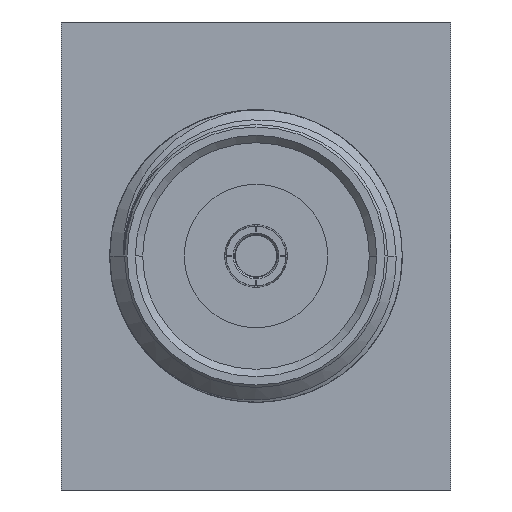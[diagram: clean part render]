
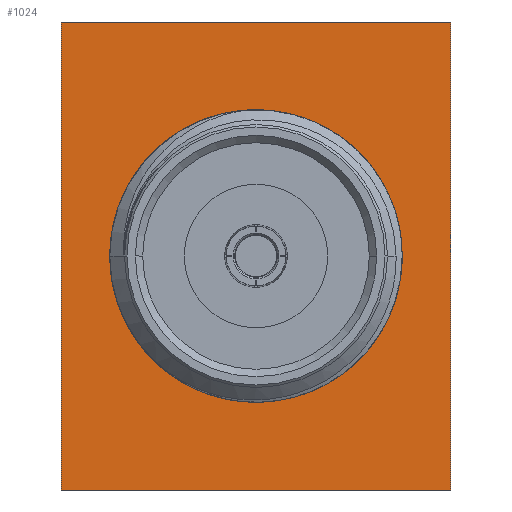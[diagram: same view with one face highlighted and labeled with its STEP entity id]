
A CAD part, left-side view. The second image highlights one B-rep face of the part: STEP entity #1024.
In plain terms, the highlighted planar face has unit normal (-1, 0, 0).
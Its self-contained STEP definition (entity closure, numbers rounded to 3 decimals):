
#153 = VECTOR ( 'NONE', #991, 1000. ) ;
#162 = CARTESIAN_POINT ( 'NONE',  ( 9.3, 3.96, 2.577 ) ) ;
#221 = ORIENTED_EDGE ( 'NONE', *, *, #1110, .T. ) ;
#317 = DIRECTION ( 'NONE',  ( 0., -1., 0. ) ) ;
#426 = ORIENTED_EDGE ( 'NONE', *, *, #4615, .T. ) ;
#464 = CIRCLE ( 'NONE', #4415, 2.675 ) ;
#556 = DIRECTION ( 'NONE',  ( 0., 0., -1. ) ) ;
#565 = VERTEX_POINT ( 'NONE', #3087 ) ;
#640 = CARTESIAN_POINT ( 'NONE',  ( 9.3, 0.081, 4.76 ) ) ;
#859 = CIRCLE ( 'NONE', #4413, 2.675 ) ;
#925 = VERTEX_POINT ( 'NONE', #3948 ) ;
#991 = DIRECTION ( 'NONE',  ( 0., 1., 0. ) ) ;
#1011 = LINE ( 'NONE', #640, #153 ) ;
#1024 = ADVANCED_FACE ( 'NONE', ( #2456, #3984 ), #2850, .T. ) ;
#1110 = EDGE_CURVE ( 'NONE', #565, #925, #3662, .T. ) ;
#1158 = DIRECTION ( 'NONE',  ( 1., 0., 0. ) ) ;
#1184 = ORIENTED_EDGE ( 'NONE', *, *, #3775, .T. ) ;
#1258 = VECTOR ( 'NONE', #317, 1000. ) ;
#1263 = EDGE_CURVE ( 'NONE', #2062, #2448, #464, .T. ) ;
#1302 = LINE ( 'NONE', #2092, #2423 ) ;
#1406 = CARTESIAN_POINT ( 'NONE',  ( 9.3, 4.507, -4.76 ) ) ;
#1412 = EDGE_LOOP ( 'NONE', ( #2189, #1184, #426, #221 ) ) ;
#1635 = VERTEX_POINT ( 'NONE', #3554 ) ;
#1732 = VECTOR ( 'NONE', #556, 1000. ) ;
#1949 = DIRECTION ( 'NONE',  ( 0., 1., 0. ) ) ;
#2062 = VERTEX_POINT ( 'NONE', #4472 ) ;
#2092 = CARTESIAN_POINT ( 'NONE',  ( 9.3, -3.96, -2.577 ) ) ;
#2189 = ORIENTED_EDGE ( 'NONE', *, *, #3113, .T. ) ;
#2306 = CARTESIAN_POINT ( 'NONE',  ( 9.3, 4.587, 0. ) ) ;
#2423 = VECTOR ( 'NONE', #3101, 1000. ) ;
#2448 = VERTEX_POINT ( 'NONE', #3634 ) ;
#2456 = FACE_OUTER_BOUND ( 'NONE', #1412, .T. ) ;
#2462 = LINE ( 'NONE', #162, #1732 ) ;
#2664 = EDGE_LOOP ( 'NONE', ( #3987, #3545 ) ) ;
#2850 = PLANE ( 'NONE',  #4097 ) ;
#3087 = CARTESIAN_POINT ( 'NONE',  ( 9.3, 3.96, -4.76 ) ) ;
#3101 = DIRECTION ( 'NONE',  ( 0., 0., 1. ) ) ;
#3113 = EDGE_CURVE ( 'NONE', #925, #1635, #1302, .T. ) ;
#3220 = DIRECTION ( 'NONE',  ( 0., 1., 0. ) ) ;
#3243 = CARTESIAN_POINT ( 'NONE',  ( 9.3, 0., 0. ) ) ;
#3545 = ORIENTED_EDGE ( 'NONE', *, *, #3870, .T. ) ;
#3554 = CARTESIAN_POINT ( 'NONE',  ( 9.3, -3.96, 4.76 ) ) ;
#3592 = DIRECTION ( 'NONE',  ( 1., 0., 0. ) ) ;
#3634 = CARTESIAN_POINT ( 'NONE',  ( 9.3, -2.675, 0. ) ) ;
#3662 = LINE ( 'NONE', #1406, #1258 ) ;
#3733 = CARTESIAN_POINT ( 'NONE',  ( 9.3, 0., 0. ) ) ;
#3775 = EDGE_CURVE ( 'NONE', #1635, #4489, #1011, .T. ) ;
#3846 = DIRECTION ( 'NONE',  ( 0., 1., 0. ) ) ;
#3870 = EDGE_CURVE ( 'NONE', #2448, #2062, #859, .T. ) ;
#3948 = CARTESIAN_POINT ( 'NONE',  ( 9.3, -3.96, -4.76 ) ) ;
#3984 = FACE_BOUND ( 'NONE', #2664, .T. ) ;
#3987 = ORIENTED_EDGE ( 'NONE', *, *, #1263, .T. ) ;
#4097 = AXIS2_PLACEMENT_3D ( 'NONE', #2306, #4608, #3846 ) ;
#4413 = AXIS2_PLACEMENT_3D ( 'NONE', #3243, #3592, #3220 ) ;
#4415 = AXIS2_PLACEMENT_3D ( 'NONE', #3733, #1158, #1949 ) ;
#4472 = CARTESIAN_POINT ( 'NONE',  ( 9.3, 2.675, 0. ) ) ;
#4489 = VERTEX_POINT ( 'NONE', #4537 ) ;
#4537 = CARTESIAN_POINT ( 'NONE',  ( 9.3, 3.96, 4.76 ) ) ;
#4608 = DIRECTION ( 'NONE',  ( -1., 0., 0. ) ) ;
#4615 = EDGE_CURVE ( 'NONE', #4489, #565, #2462, .T. ) ;
